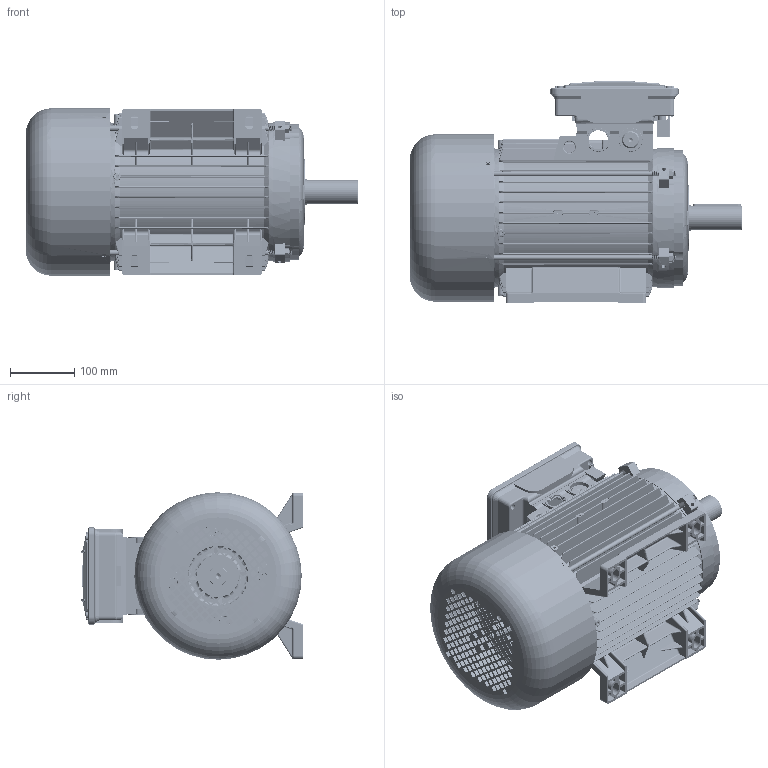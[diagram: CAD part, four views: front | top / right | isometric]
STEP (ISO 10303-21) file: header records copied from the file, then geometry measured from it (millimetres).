
FILE_DESCRIPTION (( 'STEP AP214' ), '1' );
FILE_NAME ('SM 132 M B3.STEP', '2018-07-04T14:47:51', ( '' ), ( '' ), 'SwSTEP 2.0', 'SolidWorks 2018', '' );
FILE_SCHEMA (( 'AUTOMOTIVE_DESIGN' ));
Length unit declared in the file: millimetre
Products named in the file (17): Scatola BA 132 - Completa; SM 132 M B3; Vite M5x20; Coperchio Scatola Morsettiera BA 132 - DGBR0002; Cuffia SM 132; Guarnizione Coperchio Morsettiera Doppia Scatola BA 132 - DGBS0102; Piastra stringi Pipetta BA 132 - DGBA0210 bis; Guarnizione Basetta BA 132 - DGBU0202; Vite Autofilettante Testa Bombata 4,8x9,5; Pipetta passafilo; Scatola per Morsettiera BA 132 - DGBQ0102; dado M8_M8-1.25; Tirante SM 132 M - DGCQ0003; Chiavetta 132; Albero SM 132 M; Scudo Lato Comando B3 BA 132; Carcassa 132 M B3
Assembly tree (27 placements, depth 3):
  SM 132 M B3
    Carcassa 132 M B3
    Scudo Lato Comando B3 BA 132  x2
    Albero SM 132 M
    Chiavetta 132
    Tirante SM 132 M - DGCQ0003  x4
    dado M8_M8-1.25  x4
    Scatola BA 132 - Completa
      Scatola per Morsettiera BA 132 - DGBQ0102
      Pipetta passafilo  x2
      Vite Autofilettante Testa Bombata 4,8x9,5
      Guarnizione Basetta BA 132 - DGBU0202
      Piastra stringi Pipetta BA 132 - DGBA0210 bis
      Guarnizione Coperchio Morsettiera Doppia Scatola BA 132 - DGBS0102
      Coperchio Scatola Morsettiera BA 132 - DGBR0002
      Vite M5x20  x4
    Cuffia SM 132
Bounding box: 515.75 x 344.89 x 259.99 mm (x, y, z)
Volume: 4184072.5 mm3; surface area: 1755566.4 mm2
Topology: 26 solids, 26 shells, 6168 faces, 16567 edges, 10516 vertices
Faces by surface type: cylinder 2750, plane 1934, bspline 623, torus 457, cone 388, sphere 16
Entity records: 194202 total; most frequent: CARTESIAN_POINT 80375, ORIENTED_EDGE 25008, DIRECTION 22156, EDGE_CURVE 12504, AXIS2_PLACEMENT_3D 8021, VERTEX_POINT 7977, VECTOR 6114, LINE 6114
